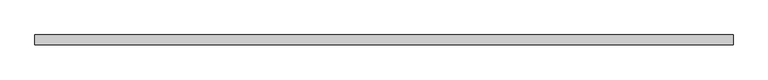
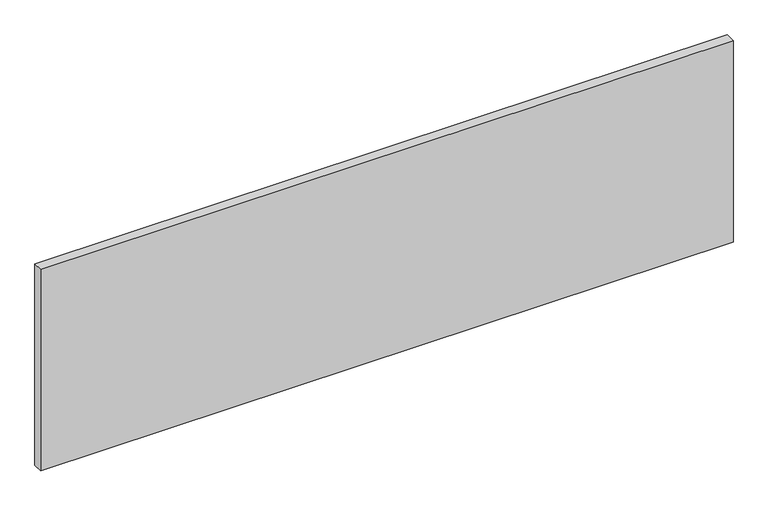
"""IFC4 building model written with IfcOpenShell, lengths in millimetres: proxy geometry, BASYS^RETURN_SEATED RIGHT-78x24."""

from ifc_helpers import new_model, si_unit, frame, origin, place, context, project, spatial, polyline, outline, extrude, source, transform, mapped, element, save


def generic_models_813ad13f(model_context):
    return source(origin(), model_context, "Body", "SweptSolid", [
        extrude(outline(polyline([(1981.2, 0.0), (0.0, 0.0), (0.0, 28.575), (1981.2, 28.575), (1981.2, 0.0)])), frame((0.0, 0.0, -609.6), z_axis=(0.0, 0.0, 1.0), x_axis=(1.0, 0.0, 0.0)), (0.0, 0.0, 1.0), 609.6),
    ])


if __name__ == "__main__":
    model = new_model("IFC4")
    model_context = context("Model", 3, world=origin())
    ifc_project = project(units=[si_unit("LENGTHUNIT", "METRE", prefix="MILLI")], contexts=[model_context])
    site = spatial("IfcSite", under=ifc_project)
    building = spatial("IfcBuilding", under=site)
    placement = place(None, origin())
    generic_models_shape = generic_models_813ad13f(model_context)
    element("IfcBuildingElementProxy", 1, Name="BASYS^RETURN_SEATED RIGHT-78x24", ObjectType="BASYS^RETURN_SEATED RIGHT-78x24", at=placement, inside=building, context=model_context, shape_type="MappedRepresentation", body=[
        mapped(generic_models_shape, transform((0.0, 0.0, 0.0), x_axis=(1.0, 0.0, 0.0), y_axis=(0.0, 1.0, 0.0), z_axis=(0.0, 0.0, 1.0))),
    ])
    save(model, "model.ifc")
